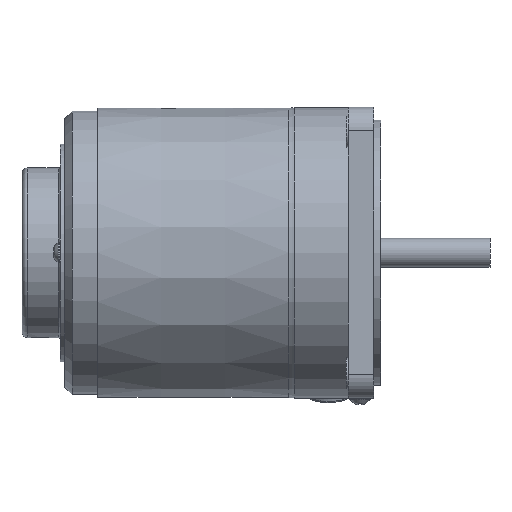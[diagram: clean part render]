
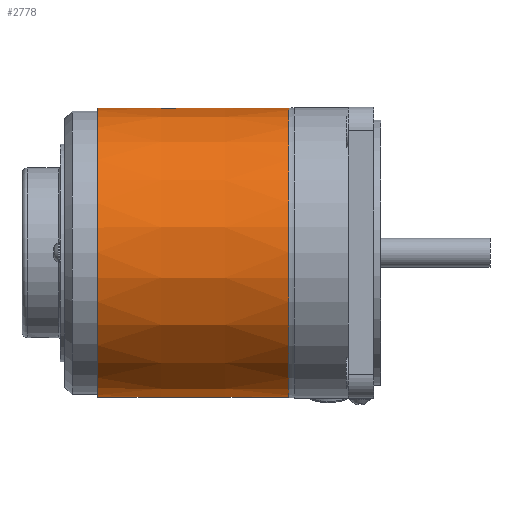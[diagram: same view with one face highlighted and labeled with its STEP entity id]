
A CAD part, top view. The second image highlights one B-rep face of the part: STEP entity #2778.
In plain terms, the highlighted conical face has half-angle 0.073 degrees and reference radius 39.784 mm.
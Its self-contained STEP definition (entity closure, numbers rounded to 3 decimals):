
#14=CONICAL_SURFACE('',#3027,39.784,0.073);
#128=FACE_BOUND('',#637,.T.);
#227=CIRCLE('',#3026,39.75);
#228=CIRCLE('',#3028,39.817);
#423=FACE_OUTER_BOUND('',#636,.T.);
#636=EDGE_LOOP('',(#2169));
#637=EDGE_LOOP('',(#2170));
#1269=VERTEX_POINT('',#4573);
#1270=VERTEX_POINT('',#4576);
#1587=EDGE_CURVE('',#1269,#1269,#227,.T.);
#1588=EDGE_CURVE('',#1270,#1270,#228,.T.);
#2169=ORIENTED_EDGE('',*,*,#1588,.F.);
#2170=ORIENTED_EDGE('',*,*,#1587,.T.);
#2778=ADVANCED_FACE('',(#423,#128),#14,.T.);
#3026=AXIS2_PLACEMENT_3D('',#4574,#3625,#3626);
#3027=AXIS2_PLACEMENT_3D('',#4575,#3627,#3628);
#3028=AXIS2_PLACEMENT_3D('',#4577,#3629,#3630);
#3625=DIRECTION('center_axis',(1.,0.,0.));
#3626=DIRECTION('ref_axis',(0.,1.,0.));
#3627=DIRECTION('center_axis',(1.,0.,0.));
#3628=DIRECTION('ref_axis',(0.,1.,0.));
#3629=DIRECTION('center_axis',(1.,0.,0.));
#3630=DIRECTION('ref_axis',(0.,1.,0.));
#4573=CARTESIAN_POINT('',(9.,39.75,0.));
#4574=CARTESIAN_POINT('Origin',(9.,0.,0.));
#4575=CARTESIAN_POINT('Origin',(35.288,0.,0.));
#4576=CARTESIAN_POINT('',(61.576,39.817,0.));
#4577=CARTESIAN_POINT('Origin',(61.576,0.,0.));
